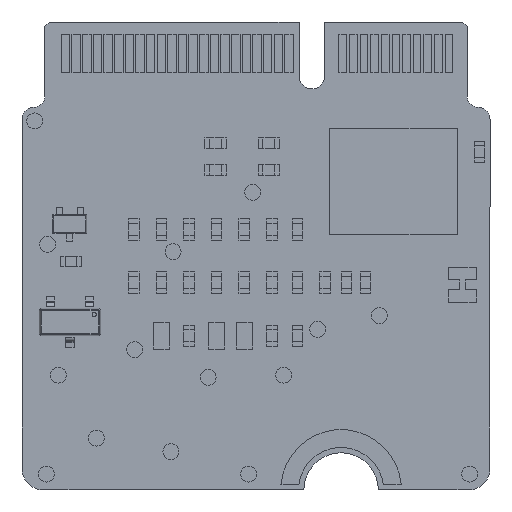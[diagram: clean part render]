
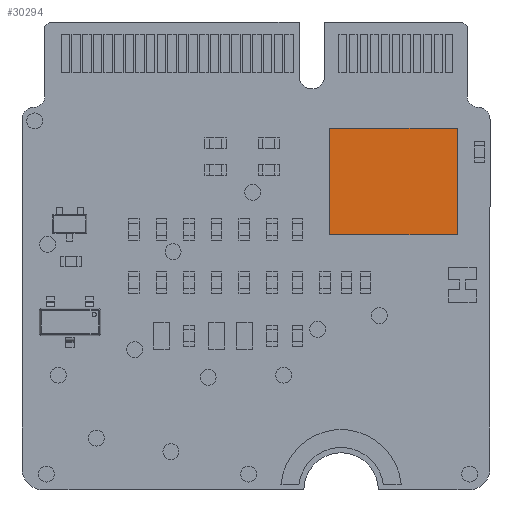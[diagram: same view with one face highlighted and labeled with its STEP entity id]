
A CAD part, front view. The second image highlights one B-rep face of the part: STEP entity #30294.
In plain terms, the highlighted planar face has unit normal (0, -1, 0).
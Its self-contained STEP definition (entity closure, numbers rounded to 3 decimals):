
#2750 = CARTESIAN_POINT ( 'NONE',  ( 9.46, -1.6, 1. ) ) ;
#3615 = FACE_OUTER_BOUND ( 'NONE', #13801, .T. ) ;
#6187 = VECTOR ( 'NONE', #54044, 1000. ) ;
#6480 = DIRECTION ( 'NONE',  ( -1., 0., 0. ) ) ;
#11109 = VERTEX_POINT ( 'NONE', #37135 ) ;
#11754 = ORIENTED_EDGE ( 'NONE', *, *, #40536, .T. ) ;
#13801 = EDGE_LOOP ( 'NONE', ( #11754, #47325, #23769, #47782 ) ) ;
#14962 = LINE ( 'NONE', #43090, #6187 ) ;
#15977 = EDGE_CURVE ( 'NONE', #11109, #35409, #23614, .T. ) ;
#16597 = CARTESIAN_POINT ( 'NONE',  ( 9.46, -1.6, 1. ) ) ;
#16663 = CARTESIAN_POINT ( 'NONE',  ( 9.46, -1.6, 6. ) ) ;
#18711 = DIRECTION ( 'NONE',  ( 0., 0., 1. ) ) ;
#18937 = CARTESIAN_POINT ( 'NONE',  ( 3.46, -1.6, 6. ) ) ;
#19480 = VECTOR ( 'NONE', #41957, 1000. ) ;
#22454 = VERTEX_POINT ( 'NONE', #41085 ) ;
#23614 = LINE ( 'NONE', #16663, #32366 ) ;
#23769 = ORIENTED_EDGE ( 'NONE', *, *, #44823, .T. ) ;
#24047 = VERTEX_POINT ( 'NONE', #2750 ) ;
#28887 = PLANE ( 'NONE',  #33036 ) ;
#30294 = ADVANCED_FACE ( 'NONE', ( #3615 ), #28887, .F. ) ;
#31012 = EDGE_CURVE ( 'NONE', #22454, #24047, #37767, .T. ) ;
#32366 = VECTOR ( 'NONE', #6480, 1000. ) ;
#33036 = AXIS2_PLACEMENT_3D ( 'NONE', #64522, #49226, #18711 ) ;
#35409 = VERTEX_POINT ( 'NONE', #18937 ) ;
#36535 = LINE ( 'NONE', #64521, #61246 ) ;
#37135 = CARTESIAN_POINT ( 'NONE',  ( 9.46, -1.6, 6. ) ) ;
#37767 = LINE ( 'NONE', #16597, #19480 ) ;
#40536 = EDGE_CURVE ( 'NONE', #35409, #22454, #14962, .T. ) ;
#41085 = CARTESIAN_POINT ( 'NONE',  ( 3.46, -1.6, 1. ) ) ;
#41957 = DIRECTION ( 'NONE',  ( 1., 0., 0. ) ) ;
#43090 = CARTESIAN_POINT ( 'NONE',  ( 3.46, -1.6, 6. ) ) ;
#44823 = EDGE_CURVE ( 'NONE', #24047, #11109, #36535, .T. ) ;
#47325 = ORIENTED_EDGE ( 'NONE', *, *, #31012, .T. ) ;
#47782 = ORIENTED_EDGE ( 'NONE', *, *, #15977, .T. ) ;
#49226 = DIRECTION ( 'NONE',  ( 0., 1., 0. ) ) ;
#53946 = DIRECTION ( 'NONE',  ( 0., 0., 1. ) ) ;
#54044 = DIRECTION ( 'NONE',  ( 0., 0., -1. ) ) ;
#61246 = VECTOR ( 'NONE', #53946, 1000. ) ;
#64521 = CARTESIAN_POINT ( 'NONE',  ( 9.46, -1.6, 6. ) ) ;
#64522 = CARTESIAN_POINT ( 'NONE',  ( 0., -1.6, 0. ) ) ;
